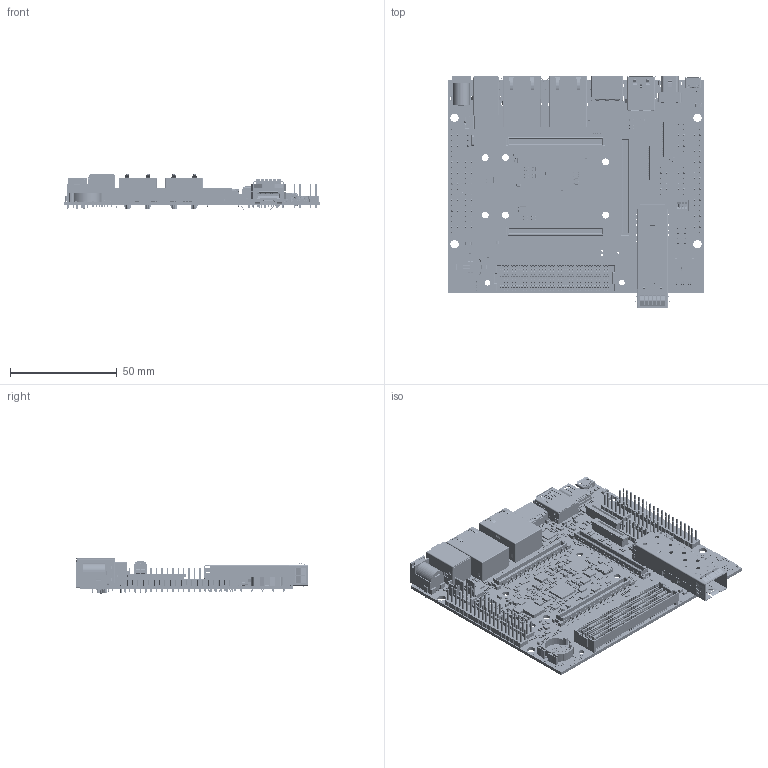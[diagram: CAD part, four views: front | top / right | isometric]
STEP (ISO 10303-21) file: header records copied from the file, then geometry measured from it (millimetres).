
FILE_DESCRIPTION(('Open CASCADE Model'),'2;1');
FILE_NAME('Open CASCADE Shape Model','2020-05-19T12:22:52',('Author'),( 'Open CASCADE'),'Open CASCADE STEP processor 6.8','Open CASCADE 6.8' ,'Unknown');
FILE_SCHEMA(('AUTOMOTIVE_DESIGN { 1 0 10303 214 1 1 1 1 }'));
Length unit declared in the file: millimetre
Products named in the file (1068): --
Assembly tree (1903 placements, depth 7):
  --
    --
      --
    --
      --
    --
      --
    --
      --
    --
      --
    --
      --
    --
      --
    --
      --
    --
      --
    --
      --
    --
      --
    --
      --
    --
      --
    --
      --
    --
      --
    --
      --
    --
      --
    --
      --
    --
      --
    --
      --
    --
      --  x6
      --  x6
    --
      --
        --
    --
      --
    --
      --
    --
      --
    --
      --
    --
      --
    --
      --
        --
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Bounding box: 120 x 109.07 x 17.34 mm (x, y, z)
Volume: 39802.5 mm3; surface area: 78148.1 mm2
Topology: 2292 solids, 2292 shells, 48360 faces, 123835 edges, 80952 vertices
Faces by surface type: plane 38604, cylinder 4737, extrusion 4681, sphere 128, bspline 126, cone 46, torus 38
Full cylindrical faces by diameter (mm): 0.2 x28, 0.207 x1, 0.3 x18, 0.4 x6, 0.5 x9, 0.55 x20, 0.6 x3, 0.7 x14, 0.9 x17, 1 x132, 1.1 x66, 1.118 x1, 1.2 x1, 1.3 x12, 1.4 x1, 1.6 x6, 2.3 x4, 2.7 x6, 3.2 x20, 3.3 x4, 3.9 x4, 4 x8, 5.8 x4, 6 x6, 6.4 x6
Entity records: 888399 total; most frequent: CARTESIAN_POINT 149169, ORIENTED_EDGE 129694, DIRECTION 118532, EDGE_CURVE 64847, VECTOR 56450, LINE 55209, VERTEX_POINT 42596, AXIS2_PLACEMENT_3D 31041
